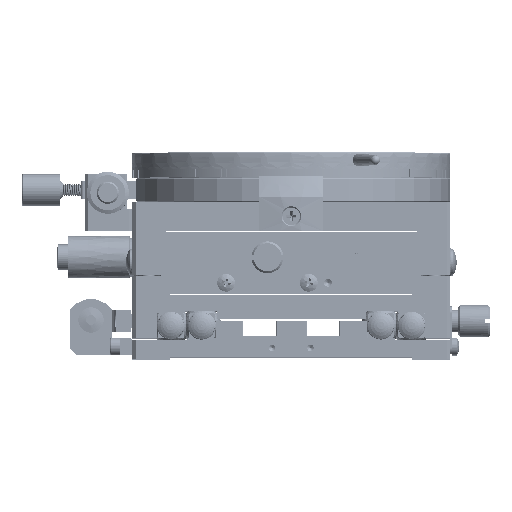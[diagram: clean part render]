
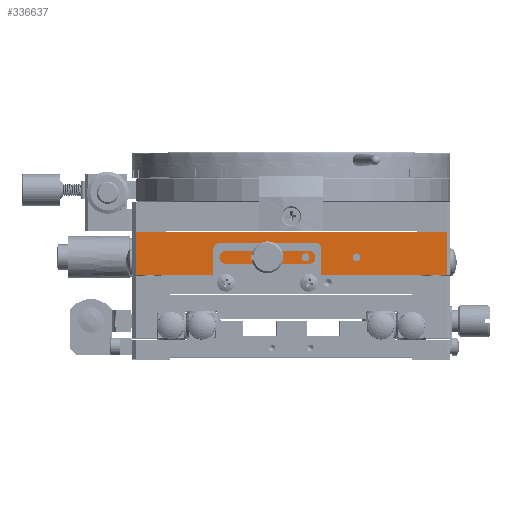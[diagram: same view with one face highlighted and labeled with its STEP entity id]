
A CAD part, top view. The second image highlights one B-rep face of the part: STEP entity #336637.
In plain terms, the highlighted planar face has unit normal (0, 0, 1).
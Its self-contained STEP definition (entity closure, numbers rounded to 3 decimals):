
#2847 = EDGE_CURVE ( 'NONE', #170212, #143112, #19950, .T. ) ;
#9569 = VERTEX_POINT ( 'NONE', #66243 ) ;
#12545 = DIRECTION ( 'NONE',  ( 1., 0., 0. ) ) ;
#15382 = VERTEX_POINT ( 'NONE', #189941 ) ;
#16666 = DIRECTION ( 'NONE',  ( 1., 0., 0. ) ) ;
#17989 = FACE_BOUND ( 'NONE', #235837, .T. ) ;
#18412 = CARTESIAN_POINT ( 'NONE',  ( 49., 0., 50. ) ) ;
#19771 = PLANE ( 'NONE',  #260353 ) ;
#19950 = LINE ( 'NONE', #47366, #264465 ) ;
#20676 = DIRECTION ( 'NONE',  ( 1., 0., 0. ) ) ;
#20909 = ORIENTED_EDGE ( 'NONE', *, *, #186046, .F. ) ;
#24274 = DIRECTION ( 'NONE',  ( 0., 0., 1. ) ) ;
#25049 = ORIENTED_EDGE ( 'NONE', *, *, #354192, .F. ) ;
#29030 = EDGE_LOOP ( 'NONE', ( #20909 ) ) ;
#32956 = CARTESIAN_POINT ( 'NONE',  ( -5.85, -8., 50. ) ) ;
#38142 = LINE ( 'NONE', #124120, #186645 ) ;
#47366 = CARTESIAN_POINT ( 'NONE',  ( 49., -13.5, 50. ) ) ;
#48335 = EDGE_LOOP ( 'NONE', ( #171168, #153718, #25049, #72640 ) ) ;
#49108 = CARTESIAN_POINT ( 'NONE',  ( 4.5, -8., 50. ) ) ;
#66243 = CARTESIAN_POINT ( 'NONE',  ( -10.25, -8., 50. ) ) ;
#68945 = DIRECTION ( 'NONE',  ( 1., 0., 0. ) ) ;
#72640 = ORIENTED_EDGE ( 'NONE', *, *, #336933, .T. ) ;
#73352 = VECTOR ( 'NONE', #178573, 1000. ) ;
#80242 = DIRECTION ( 'NONE',  ( 0., 1., 0. ) ) ;
#113842 = CARTESIAN_POINT ( 'NONE',  ( 49., -13.5, 50. ) ) ;
#118893 = VERTEX_POINT ( 'NONE', #32956 ) ;
#124120 = CARTESIAN_POINT ( 'NONE',  ( -50., -13.5, 50. ) ) ;
#125924 = FACE_BOUND ( 'NONE', #29030, .T. ) ;
#127307 = DIRECTION ( 'NONE',  ( 0., 0., 1. ) ) ;
#127747 = DIRECTION ( 'NONE',  ( 1., 0., 0. ) ) ;
#128550 = ORIENTED_EDGE ( 'NONE', *, *, #302635, .F. ) ;
#129540 = FACE_BOUND ( 'NONE', #335893, .T. ) ;
#130896 = AXIS2_PLACEMENT_3D ( 'NONE', #299251, #127307, #156562 ) ;
#131839 = DIRECTION ( 'NONE',  ( 0., 0., 1. ) ) ;
#139513 = ORIENTED_EDGE ( 'NONE', *, *, #180704, .F. ) ;
#143112 = VERTEX_POINT ( 'NONE', #18412 ) ;
#143245 = CARTESIAN_POINT ( 'NONE',  ( 5.75, -8., 50. ) ) ;
#151269 = LINE ( 'NONE', #202581, #361674 ) ;
#153718 = ORIENTED_EDGE ( 'NONE', *, *, #2847, .T. ) ;
#156562 = DIRECTION ( 'NONE',  ( 1., 0., 0. ) ) ;
#158029 = VERTEX_POINT ( 'NONE', #320968 ) ;
#160702 = DIRECTION ( 'NONE',  ( 1., 0., 0. ) ) ;
#162781 = CIRCLE ( 'NONE', #279594, 1.65 ) ;
#164588 = AXIS2_PLACEMENT_3D ( 'NONE', #245272, #131839, #16666 ) ;
#170212 = VERTEX_POINT ( 'NONE', #113842 ) ;
#171168 = ORIENTED_EDGE ( 'NONE', *, *, #355603, .T. ) ;
#178573 = DIRECTION ( 'NONE',  ( 0., -1., 0. ) ) ;
#180704 = EDGE_CURVE ( 'NONE', #9569, #9569, #322446, .T. ) ;
#186046 = EDGE_CURVE ( 'NONE', #158029, #158029, #311936, .T. ) ;
#186645 = VECTOR ( 'NONE', #12545, 1000. ) ;
#189941 = CARTESIAN_POINT ( 'NONE',  ( -49., -13.5, 50. ) ) ;
#202581 = CARTESIAN_POINT ( 'NONE',  ( -50., 0., 50. ) ) ;
#229833 = CARTESIAN_POINT ( 'NONE',  ( -49., 0., 50. ) ) ;
#235576 = EDGE_CURVE ( 'NONE', #118893, #118893, #162781, .T. ) ;
#235837 = EDGE_LOOP ( 'NONE', ( #128550 ) ) ;
#242969 = FACE_OUTER_BOUND ( 'NONE', #48335, .T. ) ;
#243353 = CIRCLE ( 'NONE', #296096, 1.25 ) ;
#245272 = CARTESIAN_POINT ( 'NONE',  ( -11.5, -8., 50. ) ) ;
#245431 = ORIENTED_EDGE ( 'NONE', *, *, #235576, .F. ) ;
#255556 = CARTESIAN_POINT ( 'NONE',  ( -49., -13.5, 50. ) ) ;
#256630 = EDGE_LOOP ( 'NONE', ( #245431 ) ) ;
#260353 = AXIS2_PLACEMENT_3D ( 'NONE', #354608, #356417, #127747 ) ;
#264465 = VECTOR ( 'NONE', #80242, 1000. ) ;
#279594 = AXIS2_PLACEMENT_3D ( 'NONE', #329830, #24274, #20676 ) ;
#284142 = VERTEX_POINT ( 'NONE', #143245 ) ;
#296096 = AXIS2_PLACEMENT_3D ( 'NONE', #49108, #344321, #160702 ) ;
#299251 = CARTESIAN_POINT ( 'NONE',  ( 20.5, -8., 50. ) ) ;
#302635 = EDGE_CURVE ( 'NONE', #284142, #284142, #243353, .T. ) ;
#311936 = CIRCLE ( 'NONE', #130896, 1.25 ) ;
#320968 = CARTESIAN_POINT ( 'NONE',  ( 21.75, -8., 50. ) ) ;
#321169 = VERTEX_POINT ( 'NONE', #229833 ) ;
#321720 = FACE_BOUND ( 'NONE', #256630, .T. ) ;
#322446 = CIRCLE ( 'NONE', #164588, 1.25 ) ;
#329830 = CARTESIAN_POINT ( 'NONE',  ( -7.5, -8., 50. ) ) ;
#335893 = EDGE_LOOP ( 'NONE', ( #139513 ) ) ;
#336637 = ADVANCED_FACE ( 'NONE', ( #321720, #17989, #129540, #125924, #242969 ), #19771, .T. ) ;
#336933 = EDGE_CURVE ( 'NONE', #321169, #15382, #345115, .T. ) ;
#344321 = DIRECTION ( 'NONE',  ( 0., 0., 1. ) ) ;
#345115 = LINE ( 'NONE', #255556, #73352 ) ;
#354192 = EDGE_CURVE ( 'NONE', #321169, #143112, #151269, .T. ) ;
#354608 = CARTESIAN_POINT ( 'NONE',  ( -50., -13.5, 50. ) ) ;
#355603 = EDGE_CURVE ( 'NONE', #15382, #170212, #38142, .T. ) ;
#356417 = DIRECTION ( 'NONE',  ( 0., 0., 1. ) ) ;
#361674 = VECTOR ( 'NONE', #68945, 1000. ) ;
